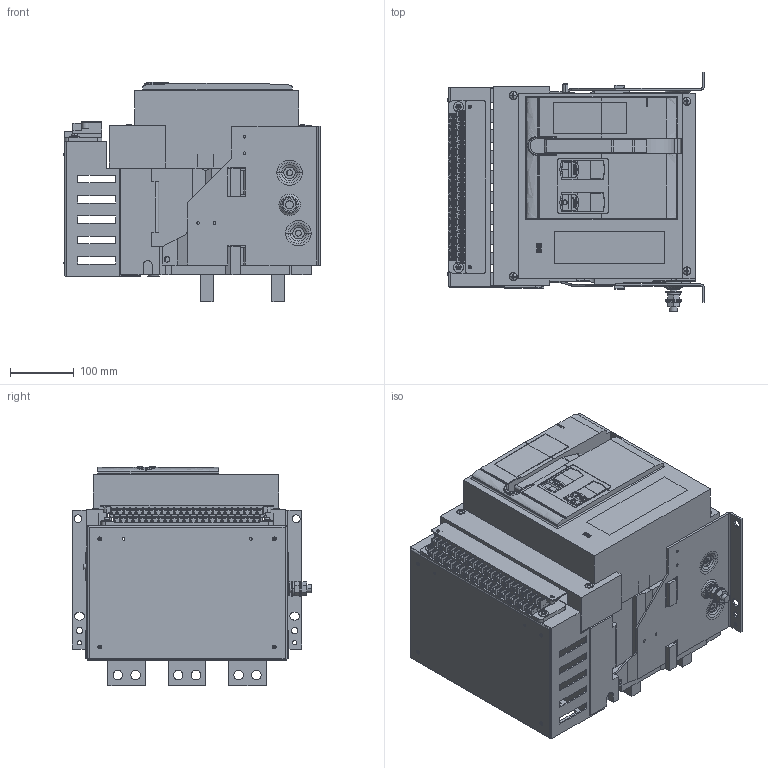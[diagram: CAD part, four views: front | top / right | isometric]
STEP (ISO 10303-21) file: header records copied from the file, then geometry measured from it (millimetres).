
FILE_DESCRIPTION((''),'2;1');
FILE_NAME('TENGEN_TGW45-2000_0001_ASM','2022-07-25T09:34:09',('liufan'),(''),'CREO PARAMETRIC BY PTC INC, 2020354','CREO PARAMETRIC BY PTC INC, 2020354','');
FILE_SCHEMA(('CONFIG_CONTROL_DESIGN'));
Products named in the file (26): MANIFOLD_SOLID_BREP_117_1_1; MANIFOLD_SOLID_BREP_119_1_1; MANIFOLD_SOLID_BREP_120_1_1; MANIFOLD_SOLID_BREP_121_1_1; MANIFOLD_SOLID_BREP_122_1_1; MANIFOLD_SOLID_BREP_123_1_1; BOJ3B645A41J6D5_ASM_1_ASM_1_ASM; 2000A3P-GDSP_ASM_1_ASM_1_ASM; 2000A3P-GDSP_ASM_2_ASM; 8TZD_005_1074_85; 8TZD_253_1322_28; 8TZD_282_1272_AF0_7; 8TZD_235_1114_34; 8TZD_282_1271_AF1_11; 8TZD_282_1271_AF2_11; 8TZD_253_1325_22; 8TZD_253_1324_21; 8TZD_321_1011_43; 8TZD_860_1386_5; 5TZD_005_1023_ASM_23_ASM; 8TZD-253-1323_8; MANIFOLD_SOLID_BREP_64659_12; GB_T9074_4-M6X80_4; 2000ZHAOKE_ASM_1_ASM; 2000ZHAOKE_ASM_ASM; TENGEN_TGW45-2000_0001_ASM
Assembly tree (28 placements, depth 5):
  TENGEN_TGW45-2000_0001_ASM
    2000A3P-GDSP_ASM_2_ASM
      2000A3P-GDSP_ASM_1_ASM_1_ASM
        BOJ3B645A41J6D5_ASM_1_ASM_1_ASM
          MANIFOLD_SOLID_BREP_117_1_1
          MANIFOLD_SOLID_BREP_119_1_1
          MANIFOLD_SOLID_BREP_120_1_1
          MANIFOLD_SOLID_BREP_121_1_1
          MANIFOLD_SOLID_BREP_122_1_1
          MANIFOLD_SOLID_BREP_123_1_1
    2000ZHAOKE_ASM_ASM
      2000ZHAOKE_ASM_1_ASM
        5TZD_005_1023_ASM_23_ASM
          8TZD_005_1074_85
          8TZD_253_1322_28
          8TZD_282_1272_AF0_7
          8TZD_235_1114_34
          8TZD_282_1271_AF1_11
          8TZD_282_1271_AF2_11
          8TZD_253_1325_22
          8TZD_253_1324_21
          8TZD_321_1011_43
          8TZD_860_1386_5
        8TZD-253-1323_8
        MANIFOLD_SOLID_BREP_64659_12
        GB_T9074_4-M6X80_4  x4
Bounding box: 404 x 376.4 x 345.72 mm (x, y, z)
Volume: 17316608.6 mm3; surface area: 1780346.7 mm2
Topology: 22 solids, 26 shells, 4757 faces, 13069 edges, 8547 vertices
Faces by surface type: plane 3219, cylinder 997, bspline 305, extrusion 83, torus 79, cone 62, sphere 12
Entity records: 214246 total; most frequent: CARTESIAN_POINT 94860, ORIENTED_EDGE 25620, DIRECTION 23701, EDGE_CURVE 12812, VECTOR 8965, LINE 8882, VERTEX_POINT 8376, AXIS2_PLACEMENT_3D 7368
